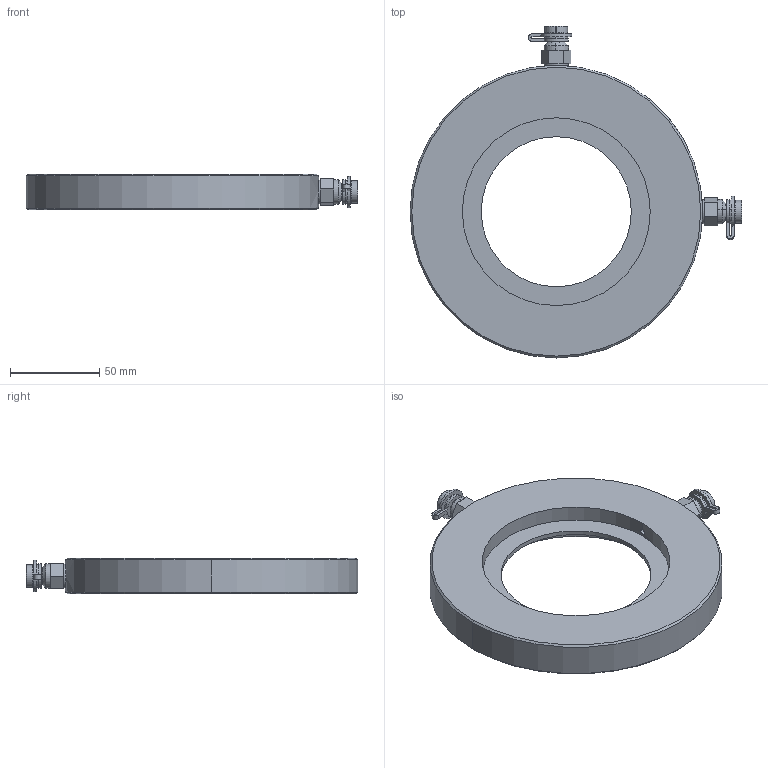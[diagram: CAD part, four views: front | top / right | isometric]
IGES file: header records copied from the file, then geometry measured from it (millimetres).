
Global section: file name: No Iges File Name specified; native system: AutoDesk Inventor R12.0; preprocessor: AutoDesk Inventor Iges Exporter R12.0; date: 20110308.092527; units: millimetre
Bounding box: 186.1 x 186.1 x 20 mm (x, y, z)
Volume: 262101.4 mm3; surface area: 50820.8 mm2
Topology: 1 solids, 1 shells, 131 faces, 316 edges, 204 vertices
Faces by surface type: plane 74, cylinder 27, cone 16, revolution 14
